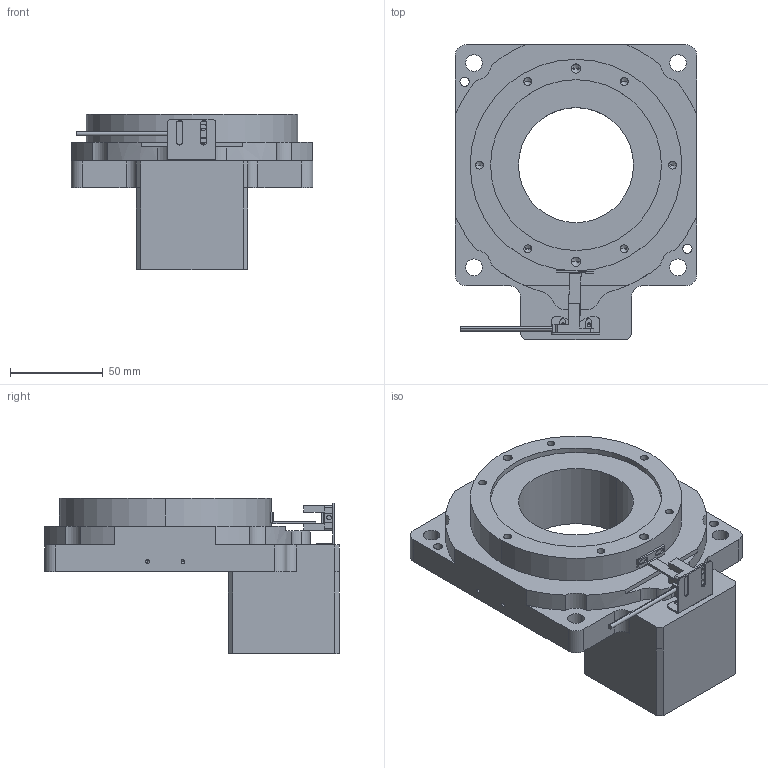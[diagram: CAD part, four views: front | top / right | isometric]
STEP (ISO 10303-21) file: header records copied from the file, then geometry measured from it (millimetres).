
FILE_DESCRIPTION (( 'STEP AP203' ), '1' );
FILE_NAME ('RTN130-10K-8-36-70-M4£¨60²½½ø).STEP', '2024-05-21T10:04:01', ( '' ), ( '' ), 'SwSTEP 2.0', 'SolidWorks 2023', '' );
FILE_SCHEMA (( 'CONFIG_CONTROL_DESIGN' ));
Length unit declared in the file: millimetre
Products named in the file (1): RTN130-10K-8-36-70-M4（60步进)
Bounding box: 130 x 158.8 x 83.5 mm (x, y, z)
Volume: 588084.3 mm3; surface area: 76418.8 mm2
Topology: 4 solids, 6 shells, 278 faces, 737 edges, 458 vertices
Faces by surface type: cylinder 124, plane 114, cone 40
Entity records: 8480 total; most frequent: DIRECTION 1503, CARTESIAN_POINT 1440, ORIENTED_EDGE 1394, EDGE_CURVE 697, AXIS2_PLACEMENT_3D 529, VERTEX_POINT 458, VECTOR 445, LINE 445
